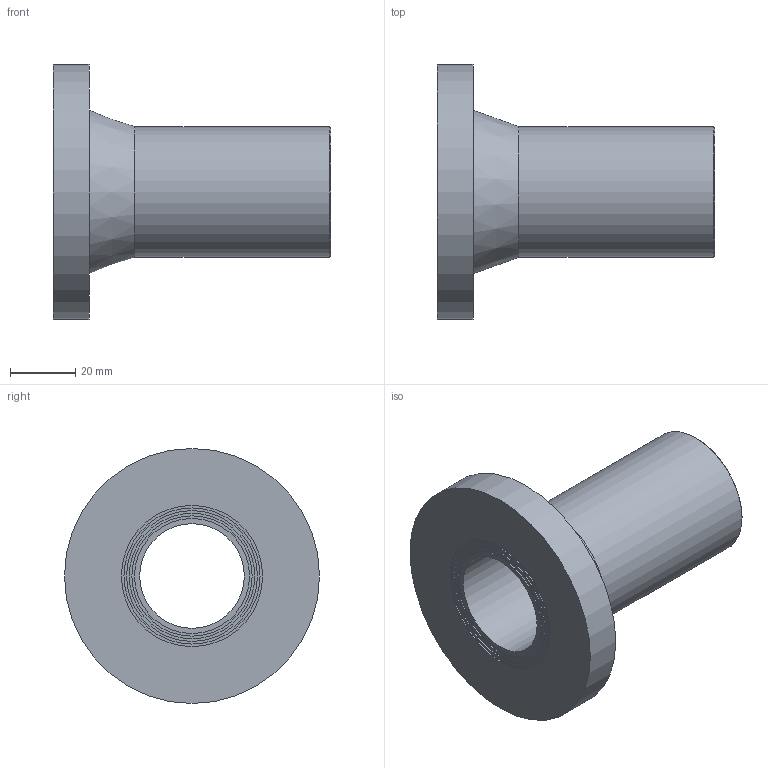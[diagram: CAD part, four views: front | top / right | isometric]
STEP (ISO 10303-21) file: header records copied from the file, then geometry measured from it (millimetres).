
FILE_DESCRIPTION(/* description */ ('Stub Flange 40'),/* implementation_level */ '2;1');
FILE_NAME(/* name */ 'C:\Dropbox\KIMPROJECTS-Inventor\99-16-3568-Processing\ElectroFusion Fittings\31.03.19\490207\490207040.ipt.stp',/* time_stamp */ '2019-03-31T18:57:39+03:00',/* author */ ('Кирилл'),/* organization */ (''),/* preprocessor_version */ 'ST-DEVELOPER v15.6',/* originating_system */ 'Autodesk Inventor 2015',/* authorisation */ '');
FILE_SCHEMA (('AUTOMOTIVE_DESIGN { 1 0 10303 214 3 1 1 }'));
Length unit declared in the file: millimetre
Products named in the file (1): 490207040
Bounding box: 85 x 78 x 78 mm (x, y, z)
Volume: 81828.6 mm3; surface area: 28389.4 mm2
Topology: 1 solids, 1 shells, 20 faces, 31 edges, 20 vertices
Faces by surface type: cylinder 9, plane 9, cone 2
Full cylindrical faces by diameter (mm): 32 x1, 35.2 x1, 36.8 x1, 38.4 x1, 40 x2, 41.6 x1, 43.2 x1, 78 x1
Entity records: 432 total; most frequent: DIRECTION 82, CARTESIAN_POINT 61, AXIS2_PLACEMENT_3D 41, EDGE_LOOP 40, ORIENTED_EDGE 40, FACE_BOUND 20, FACE_OUTER_BOUND 20, CIRCLE 20
